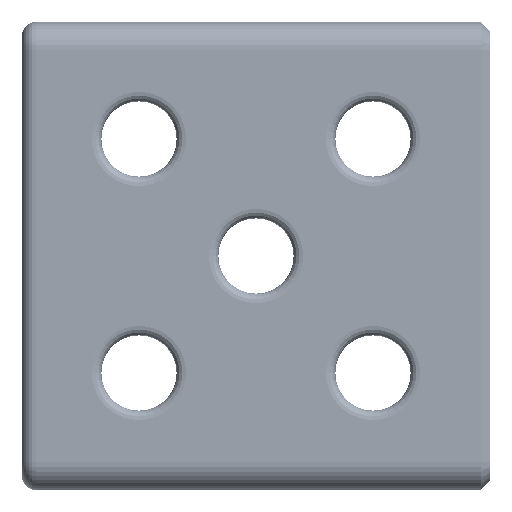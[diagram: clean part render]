
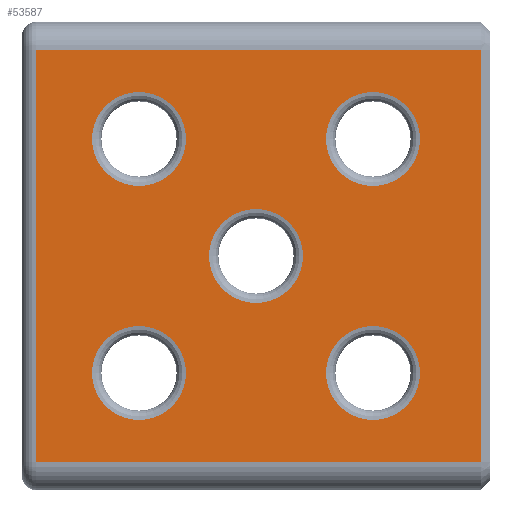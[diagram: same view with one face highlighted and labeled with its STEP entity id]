
A CAD part, left-side view. The second image highlights one B-rep face of the part: STEP entity #53587.
In plain terms, the highlighted planar face has unit normal (-1, 0, 0).
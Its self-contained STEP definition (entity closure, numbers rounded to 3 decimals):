
#63 = DIRECTION ( 'NONE',  ( 1., 0., 0. ) ) ;
#236 = VECTOR ( 'NONE', #63709, 1000. ) ;
#1097 = ORIENTED_EDGE ( 'NONE', *, *, #49191, .F. ) ;
#1964 = DIRECTION ( 'NONE',  ( 0., 0., 1. ) ) ;
#1985 = CARTESIAN_POINT ( 'NONE',  ( -1000., -3., 44. ) ) ;
#2655 = CARTESIAN_POINT ( 'NONE',  ( -1000., -50., -10.04 ) ) ;
#3357 = EDGE_CURVE ( 'NONE', #27719, #28866, #6213, .T. ) ;
#3607 = VERTEX_POINT ( 'NONE', #31205 ) ;
#3947 = ORIENTED_EDGE ( 'NONE', *, *, #21293, .T. ) ;
#4975 = VERTEX_POINT ( 'NONE', #63893 ) ;
#6213 = CIRCLE ( 'NONE', #9020, 10.04 ) ;
#6302 = EDGE_CURVE ( 'NONE', #66922, #45504, #59096, .T. ) ;
#7196 = ORIENTED_EDGE ( 'NONE', *, *, #63191, .F. ) ;
#7924 = CIRCLE ( 'NONE', #56675, 10.04 ) ;
#8555 = CARTESIAN_POINT ( 'NONE',  ( -1000., -50., 0. ) ) ;
#9020 = AXIS2_PLACEMENT_3D ( 'NONE', #8555, #44548, #13735 ) ;
#9678 = AXIS2_PLACEMENT_3D ( 'NONE', #24767, #60904, #29928 ) ;
#9764 = CARTESIAN_POINT ( 'NONE',  ( -1000., -12., -44. ) ) ;
#9852 = ORIENTED_EDGE ( 'NONE', *, *, #6302, .F. ) ;
#10373 = ORIENTED_EDGE ( 'NONE', *, *, #28408, .F. ) ;
#10710 = CARTESIAN_POINT ( 'NONE',  ( -1000., -12., 44. ) ) ;
#10972 = EDGE_CURVE ( 'NONE', #36074, #42911, #28200, .T. ) ;
#12192 = DIRECTION ( 'NONE',  ( -1., 0., 0. ) ) ;
#12452 = DIRECTION ( 'NONE',  ( 1., 0., 0. ) ) ;
#12936 = VECTOR ( 'NONE', #45756, 1000. ) ;
#13320 = EDGE_CURVE ( 'NONE', #64274, #3607, #7924, .T. ) ;
#13735 = DIRECTION ( 'NONE',  ( 0., 0., 1. ) ) ;
#14004 = LINE ( 'NONE', #32507, #236 ) ;
#15194 = AXIS2_PLACEMENT_3D ( 'NONE', #56458, #25527, #61650 ) ;
#15714 = ORIENTED_EDGE ( 'NONE', *, *, #36178, .T. ) ;
#16062 = DIRECTION ( 'NONE',  ( 1., 0., 0. ) ) ;
#17298 = PLANE ( 'NONE',  #57684 ) ;
#18185 = EDGE_LOOP ( 'NONE', ( #9852, #10373 ) ) ;
#20707 = EDGE_LOOP ( 'NONE', ( #1097, #38107 ) ) ;
#21293 = EDGE_CURVE ( 'NONE', #26755, #4975, #50513, .T. ) ;
#21345 = CARTESIAN_POINT ( 'NONE',  ( -1000., -25., -35.04 ) ) ;
#22092 = VERTEX_POINT ( 'NONE', #64061 ) ;
#22850 = DIRECTION ( 'NONE',  ( 1., 0., 0. ) ) ;
#23063 = EDGE_CURVE ( 'NONE', #38622, #48239, #14004, .T. ) ;
#23336 = CARTESIAN_POINT ( 'NONE',  ( -1000., -25., 14.96 ) ) ;
#23348 = FACE_BOUND ( 'NONE', #18185, .T. ) ;
#23977 = CARTESIAN_POINT ( 'NONE',  ( -1000., -50., 10.04 ) ) ;
#24369 = EDGE_LOOP ( 'NONE', ( #7196, #28567, #15714, #57033 ) ) ;
#24767 = CARTESIAN_POINT ( 'NONE',  ( -1000., -25., 25. ) ) ;
#24940 = FACE_BOUND ( 'NONE', #61464, .T. ) ;
#25363 = EDGE_LOOP ( 'NONE', ( #35565, #51391 ) ) ;
#25527 = DIRECTION ( 'NONE',  ( -1., 0., 0. ) ) ;
#26054 = VECTOR ( 'NONE', #47498, 1000. ) ;
#26565 = LINE ( 'NONE', #9764, #12936 ) ;
#26755 = VERTEX_POINT ( 'NONE', #61933 ) ;
#27719 = VERTEX_POINT ( 'NONE', #23977 ) ;
#28200 = CIRCLE ( 'NONE', #35307, 10.04 ) ;
#28408 = EDGE_CURVE ( 'NONE', #45504, #66922, #38095, .T. ) ;
#28567 = ORIENTED_EDGE ( 'NONE', *, *, #23063, .T. ) ;
#28757 = CARTESIAN_POINT ( 'NONE',  ( -1000., -50., 0. ) ) ;
#28866 = VERTEX_POINT ( 'NONE', #2655 ) ;
#28925 = VECTOR ( 'NONE', #51720, 1000. ) ;
#29689 = CARTESIAN_POINT ( 'NONE',  ( -1000., -75., 25. ) ) ;
#29928 = DIRECTION ( 'NONE',  ( 0., 0., -1. ) ) ;
#30019 = EDGE_LOOP ( 'NONE', ( #31807, #3947 ) ) ;
#30096 = CARTESIAN_POINT ( 'NONE',  ( -1000., -25., 35.04 ) ) ;
#30916 = CARTESIAN_POINT ( 'NONE',  ( -1000., -75., -25. ) ) ;
#31205 = CARTESIAN_POINT ( 'NONE',  ( -1000., -25., -14.96 ) ) ;
#31807 = ORIENTED_EDGE ( 'NONE', *, *, #44699, .T. ) ;
#32507 = CARTESIAN_POINT ( 'NONE',  ( -1000., -3., 0. ) ) ;
#32828 = DIRECTION ( 'NONE',  ( -1., 0., 0. ) ) ;
#33877 = CARTESIAN_POINT ( 'NONE',  ( -1000., -98., -44. ) ) ;
#33967 = DIRECTION ( 'NONE',  ( 0., 0., 1. ) ) ;
#34875 = DIRECTION ( 'NONE',  ( 0., 0., -1. ) ) ;
#35187 = CARTESIAN_POINT ( 'NONE',  ( -1000., -75., 14.96 ) ) ;
#35307 = AXIS2_PLACEMENT_3D ( 'NONE', #29689, #65878, #34875 ) ;
#35565 = ORIENTED_EDGE ( 'NONE', *, *, #3357, .T. ) ;
#36074 = VERTEX_POINT ( 'NONE', #39509 ) ;
#36130 = DIRECTION ( 'NONE',  ( 0., 0., 1. ) ) ;
#36178 = EDGE_CURVE ( 'NONE', #48239, #65137, #26565, .T. ) ;
#37031 = FACE_BOUND ( 'NONE', #20707, .T. ) ;
#38095 = CIRCLE ( 'NONE', #9678, 10.04 ) ;
#38107 = ORIENTED_EDGE ( 'NONE', *, *, #10972, .F. ) ;
#38622 = VERTEX_POINT ( 'NONE', #1985 ) ;
#39036 = CIRCLE ( 'NONE', #66851, 10.04 ) ;
#39509 = CARTESIAN_POINT ( 'NONE',  ( -1000., -75., 35.04 ) ) ;
#40025 = CIRCLE ( 'NONE', #57575, 10.04 ) ;
#40921 = AXIS2_PLACEMENT_3D ( 'NONE', #42955, #12192, #48209 ) ;
#41249 = CIRCLE ( 'NONE', #50848, 10.04 ) ;
#42602 = LINE ( 'NONE', #10710, #28925 ) ;
#42911 = VERTEX_POINT ( 'NONE', #35187 ) ;
#42955 = CARTESIAN_POINT ( 'NONE',  ( -1000., -75., 25. ) ) ;
#43246 = CARTESIAN_POINT ( 'NONE',  ( -1000., -25., -25. ) ) ;
#43763 = CARTESIAN_POINT ( 'NONE',  ( -1000., -3., -44. ) ) ;
#44153 = AXIS2_PLACEMENT_3D ( 'NONE', #30916, #63, #36130 ) ;
#44548 = DIRECTION ( 'NONE',  ( 1., 0., 0. ) ) ;
#44699 = EDGE_CURVE ( 'NONE', #4975, #26755, #40025, .T. ) ;
#45504 = VERTEX_POINT ( 'NONE', #30096 ) ;
#45756 = DIRECTION ( 'NONE',  ( 0., -1., 0. ) ) ;
#46885 = CARTESIAN_POINT ( 'NONE',  ( -1000., -75., -25. ) ) ;
#46927 = ORIENTED_EDGE ( 'NONE', *, *, #13320, .T. ) ;
#47498 = DIRECTION ( 'NONE',  ( 0., 0., 1. ) ) ;
#48187 = CARTESIAN_POINT ( 'NONE',  ( -1000., -12., 0. ) ) ;
#48209 = DIRECTION ( 'NONE',  ( 0., 0., -1. ) ) ;
#48239 = VERTEX_POINT ( 'NONE', #43763 ) ;
#48486 = DIRECTION ( 'NONE',  ( 0., 0., 1. ) ) ;
#48875 = ORIENTED_EDGE ( 'NONE', *, *, #61340, .T. ) ;
#49191 = EDGE_CURVE ( 'NONE', #42911, #36074, #58546, .T. ) ;
#50228 = EDGE_CURVE ( 'NONE', #65137, #22092, #53553, .T. ) ;
#50513 = CIRCLE ( 'NONE', #44153, 10.04 ) ;
#50781 = FACE_BOUND ( 'NONE', #25363, .T. ) ;
#50848 = AXIS2_PLACEMENT_3D ( 'NONE', #43246, #12452, #48486 ) ;
#51391 = ORIENTED_EDGE ( 'NONE', *, *, #59858, .T. ) ;
#51720 = DIRECTION ( 'NONE',  ( 0., -1., 0. ) ) ;
#52115 = DIRECTION ( 'NONE',  ( 0., 0., 1. ) ) ;
#53553 = LINE ( 'NONE', #57328, #26054 ) ;
#53587 = ADVANCED_FACE ( 'NONE', ( #64585, #50781, #66218, #24940, #37031, #23348 ), #17298, .T. ) ;
#53784 = CARTESIAN_POINT ( 'NONE',  ( -1000., -25., -25. ) ) ;
#56458 = CARTESIAN_POINT ( 'NONE',  ( -1000., -25., 25. ) ) ;
#56675 = AXIS2_PLACEMENT_3D ( 'NONE', #53784, #22850, #58988 ) ;
#57033 = ORIENTED_EDGE ( 'NONE', *, *, #50228, .T. ) ;
#57328 = CARTESIAN_POINT ( 'NONE',  ( -1000., -98., 0. ) ) ;
#57575 = AXIS2_PLACEMENT_3D ( 'NONE', #46885, #16062, #52115 ) ;
#57684 = AXIS2_PLACEMENT_3D ( 'NONE', #48187, #32828, #1964 ) ;
#58546 = CIRCLE ( 'NONE', #40921, 10.04 ) ;
#58988 = DIRECTION ( 'NONE',  ( 0., 0., 1. ) ) ;
#59096 = CIRCLE ( 'NONE', #15194, 10.04 ) ;
#59858 = EDGE_CURVE ( 'NONE', #28866, #27719, #39036, .T. ) ;
#60904 = DIRECTION ( 'NONE',  ( -1., 0., 0. ) ) ;
#61340 = EDGE_CURVE ( 'NONE', #3607, #64274, #41249, .T. ) ;
#61464 = EDGE_LOOP ( 'NONE', ( #48875, #46927 ) ) ;
#61650 = DIRECTION ( 'NONE',  ( 0., 0., -1. ) ) ;
#61933 = CARTESIAN_POINT ( 'NONE',  ( -1000., -75., -35.04 ) ) ;
#63191 = EDGE_CURVE ( 'NONE', #38622, #22092, #42602, .T. ) ;
#63709 = DIRECTION ( 'NONE',  ( 0., 0., -1. ) ) ;
#63893 = CARTESIAN_POINT ( 'NONE',  ( -1000., -75., -14.96 ) ) ;
#64061 = CARTESIAN_POINT ( 'NONE',  ( -1000., -98., 44. ) ) ;
#64274 = VERTEX_POINT ( 'NONE', #21345 ) ;
#64585 = FACE_OUTER_BOUND ( 'NONE', #24369, .T. ) ;
#64931 = DIRECTION ( 'NONE',  ( 1., 0., 0. ) ) ;
#65137 = VERTEX_POINT ( 'NONE', #33877 ) ;
#65878 = DIRECTION ( 'NONE',  ( -1., 0., 0. ) ) ;
#66218 = FACE_BOUND ( 'NONE', #30019, .T. ) ;
#66851 = AXIS2_PLACEMENT_3D ( 'NONE', #28757, #64931, #33967 ) ;
#66922 = VERTEX_POINT ( 'NONE', #23336 ) ;
